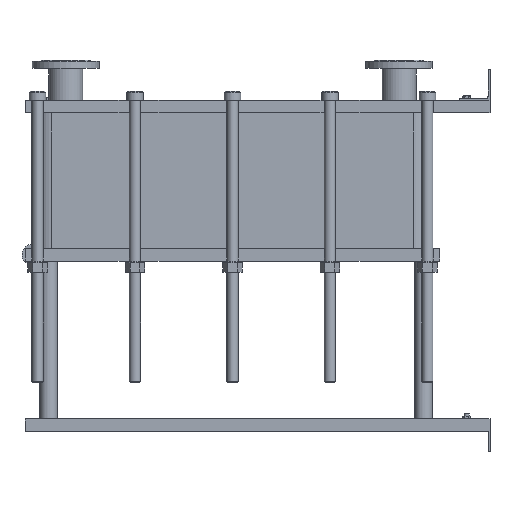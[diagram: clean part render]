
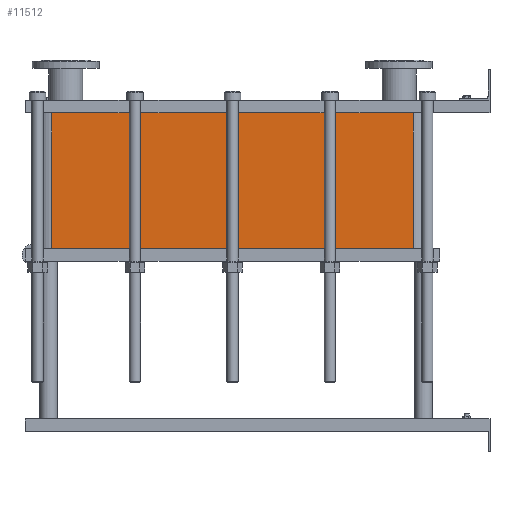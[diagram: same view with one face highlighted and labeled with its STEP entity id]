
A CAD part, left-side view. The second image highlights one B-rep face of the part: STEP entity #11512.
In plain terms, the highlighted planar face has unit normal (-1, 0, 0).
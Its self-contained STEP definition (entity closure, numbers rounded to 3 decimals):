
#1129=LINE('',#23232,#2102);
#1130=LINE('',#23236,#2103);
#1131=LINE('',#23238,#2104);
#1132=LINE('',#23239,#2105);
#2102=VECTOR('',#15887,10.);
#2103=VECTOR('',#15892,10.);
#2104=VECTOR('',#15893,10.);
#2105=VECTOR('',#15894,10.);
#3267=FACE_OUTER_BOUND('',#4093,.T.);
#4093=EDGE_LOOP('',(#10103,#10104,#10105,#10106));
#5642=VERTEX_POINT('',#23229);
#5643=VERTEX_POINT('',#23231);
#5644=VERTEX_POINT('',#23235);
#5645=VERTEX_POINT('',#23237);
#7159=EDGE_CURVE('',#5643,#5642,#1129,.T.);
#7161=EDGE_CURVE('',#5642,#5644,#1130,.T.);
#7162=EDGE_CURVE('',#5645,#5644,#1131,.T.);
#7163=EDGE_CURVE('',#5645,#5643,#1132,.T.);
#10103=ORIENTED_EDGE('',*,*,#7161,.T.);
#10104=ORIENTED_EDGE('',*,*,#7162,.F.);
#10105=ORIENTED_EDGE('',*,*,#7163,.T.);
#10106=ORIENTED_EDGE('',*,*,#7159,.T.);
#10857=PLANE('',#12751);
#11512=ADVANCED_FACE('',(#3267),#10857,.T.);
#12751=AXIS2_PLACEMENT_3D('',#23234,#15890,#15891);
#15887=DIRECTION('',(0.,0.,-1.));
#15890=DIRECTION('center_axis',(-1.,0.,0.));
#15891=DIRECTION('ref_axis',(0.,1.,0.));
#15892=DIRECTION('',(0.,-1.,0.));
#15893=DIRECTION('',(0.,0.,-1.));
#15894=DIRECTION('',(0.,1.,0.));
#23229=CARTESIAN_POINT('',(-200.,1414.,-438.15));
#23231=CARTESIAN_POINT('',(-200.,1414.,0.));
#23232=CARTESIAN_POINT('',(-200.,1414.,0.));
#23234=CARTESIAN_POINT('Origin',(-200.,248.,0.));
#23235=CARTESIAN_POINT('',(-200.,248.,-438.15));
#23236=CARTESIAN_POINT('',(-200.,539.5,-438.15));
#23237=CARTESIAN_POINT('',(-200.,248.,0.));
#23238=CARTESIAN_POINT('',(-200.,248.,0.));
#23239=CARTESIAN_POINT('',(-200.,248.,0.));
